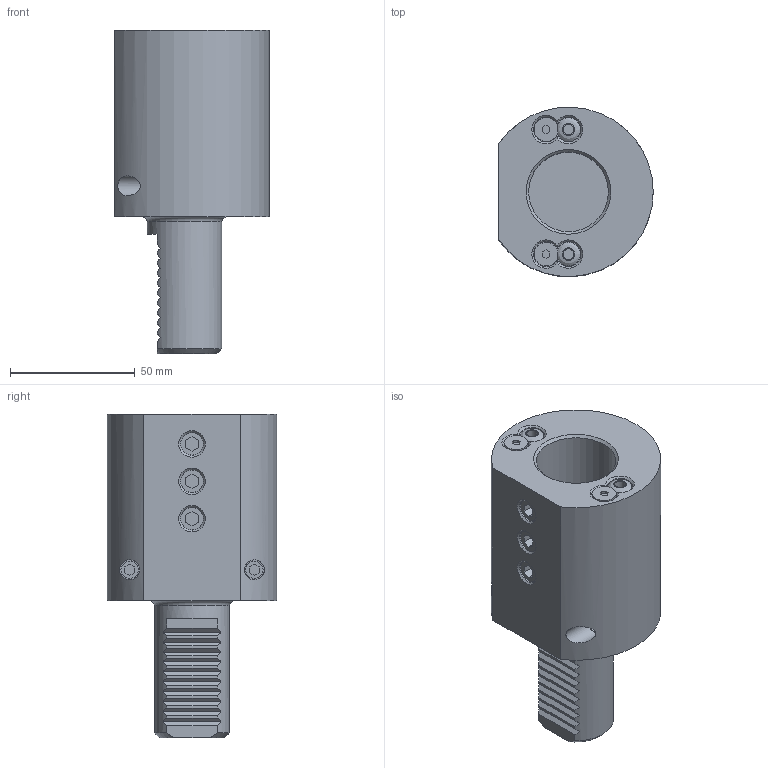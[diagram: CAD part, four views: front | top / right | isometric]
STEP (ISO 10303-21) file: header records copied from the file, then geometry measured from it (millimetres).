
FILE_DESCRIPTION(/* description */ (''),/* implementation_level */ '2;1');
FILE_NAME(/* name */ 'E2-30x32.stp',/* time_stamp */ '2025-08-21T10:39:47+03:00',/* author */ ('User'),/* organization */ (''),/* preprocessor_version */ 'ST-DEVELOPER v19.2',/* originating_system */ 'Autodesk Inventor 2024',/* authorisation */ '');
FILE_SCHEMA (('AUTOMOTIVE_DESIGN { 1 0 10303 214 3 1 1 }'));
Length unit declared in the file: millimetre
Products named in the file (1): E2-40x40
Bounding box: 62 x 67.92 x 130 mm (x, y, z)
Volume: 227786.3 mm3; surface area: 40309.8 mm2
Topology: 4 solids, 4 shells, 153 faces, 362 edges, 241 vertices
Faces by surface type: plane 115, cylinder 25, cone 10, bspline 2, torus 1
Full cylindrical faces by diameter (mm): 4.3 x2, 7 x3, 8 x3, 9 x3, 9.2 x3, 9.5 x2, 14 x1, 17 x1, 30 x1, 32 x1
Entity records: 4770 total; most frequent: CARTESIAN_POINT 1088, DIRECTION 759, ORIENTED_EDGE 724, EDGE_CURVE 362, AXIS2_PLACEMENT_3D 264, VERTEX_POINT 241, LINE 231, VECTOR 231
